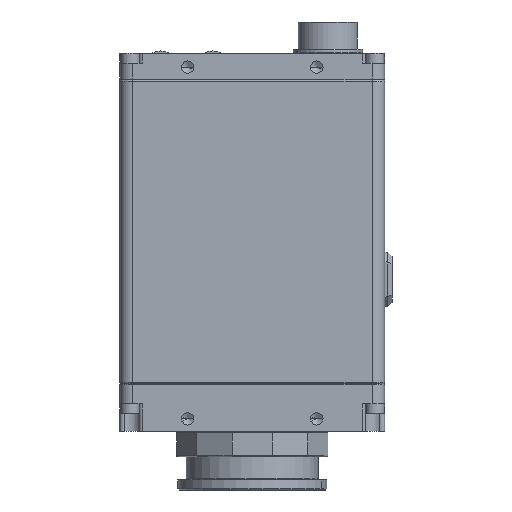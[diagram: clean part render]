
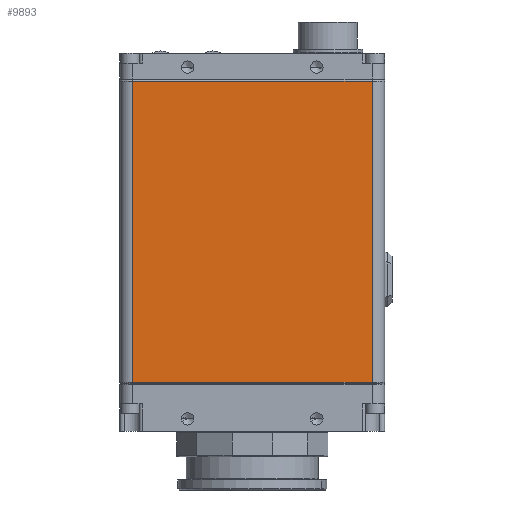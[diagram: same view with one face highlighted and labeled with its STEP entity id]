
A CAD part, front view. The second image highlights one B-rep face of the part: STEP entity #9893.
In plain terms, the highlighted planar face has unit normal (0, -1, 0) as drawn and (0, 1, 0) by its records, which use the part's own axes.
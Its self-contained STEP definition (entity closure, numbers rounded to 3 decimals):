
#3737 = VERTEX_POINT ( 'NONE', #40296 ) ;
#8173 = CARTESIAN_POINT ( 'NONE',  ( -24.13, 16.51, 60.96 ) ) ;
#9893 = ADVANCED_FACE ( 'NONE', ( #18681 ), #30370, .F. ) ;
#11665 = ORIENTED_EDGE ( 'NONE', *, *, #83781, .F. ) ;
#14537 = EDGE_CURVE ( 'NONE', #35475, #38466, #137092, .T. ) ;
#15516 = VECTOR ( 'NONE', #44796, 1000. ) ;
#16650 = VECTOR ( 'NONE', #64690, 1000. ) ;
#18681 = FACE_OUTER_BOUND ( 'NONE', #49673, .T. ) ;
#23451 = DIRECTION ( 'NONE',  ( 1., 0., 0. ) ) ;
#23625 = DIRECTION ( 'NONE',  ( 0., -1., 0. ) ) ;
#24138 = CARTESIAN_POINT ( 'NONE',  ( -26.67, 16.51, 61.214 ) ) ;
#27687 = EDGE_CURVE ( 'NONE', #70898, #3737, #44589, .T. ) ;
#29836 = CARTESIAN_POINT ( 'NONE',  ( -24.13, 16.51, 0.254 ) ) ;
#30370 = PLANE ( 'NONE',  #34639 ) ;
#34639 = AXIS2_PLACEMENT_3D ( 'NONE', #24138, #23625, #23451 ) ;
#35100 = DIRECTION ( 'NONE',  ( -1., 0., 0. ) ) ;
#35127 = CARTESIAN_POINT ( 'NONE',  ( -26.67, 16.51, 60.96 ) ) ;
#35475 = VERTEX_POINT ( 'NONE', #125048 ) ;
#38466 = VERTEX_POINT ( 'NONE', #8173 ) ;
#40296 = CARTESIAN_POINT ( 'NONE',  ( 24.13, 16.51, 0.254 ) ) ;
#44589 = LINE ( 'NONE', #45136, #15516 ) ;
#44796 = DIRECTION ( 'NONE',  ( 1., 0., 0. ) ) ;
#45136 = CARTESIAN_POINT ( 'NONE',  ( -26.67, 16.51, 0.254 ) ) ;
#49673 = EDGE_LOOP ( 'NONE', ( #106842, #82030, #91897, #11665 ) ) ;
#54717 = VECTOR ( 'NONE', #35100, 1000. ) ;
#63617 = CARTESIAN_POINT ( 'NONE',  ( -24.13, 16.51, 61.214 ) ) ;
#64690 = DIRECTION ( 'NONE',  ( 0., 0., -1. ) ) ;
#70898 = VERTEX_POINT ( 'NONE', #29836 ) ;
#80983 = CARTESIAN_POINT ( 'NONE',  ( 24.13, 16.51, 61.214 ) ) ;
#81434 = DIRECTION ( 'NONE',  ( 0., 0., 1. ) ) ;
#82030 = ORIENTED_EDGE ( 'NONE', *, *, #113895, .F. ) ;
#83781 = EDGE_CURVE ( 'NONE', #3737, #35475, #102070, .T. ) ;
#91897 = ORIENTED_EDGE ( 'NONE', *, *, #14537, .F. ) ;
#102070 = LINE ( 'NONE', #80983, #128641 ) ;
#106842 = ORIENTED_EDGE ( 'NONE', *, *, #27687, .F. ) ;
#113895 = EDGE_CURVE ( 'NONE', #38466, #70898, #129267, .T. ) ;
#125048 = CARTESIAN_POINT ( 'NONE',  ( 24.13, 16.51, 60.96 ) ) ;
#128641 = VECTOR ( 'NONE', #81434, 1000. ) ;
#129267 = LINE ( 'NONE', #63617, #16650 ) ;
#137092 = LINE ( 'NONE', #35127, #54717 ) ;
